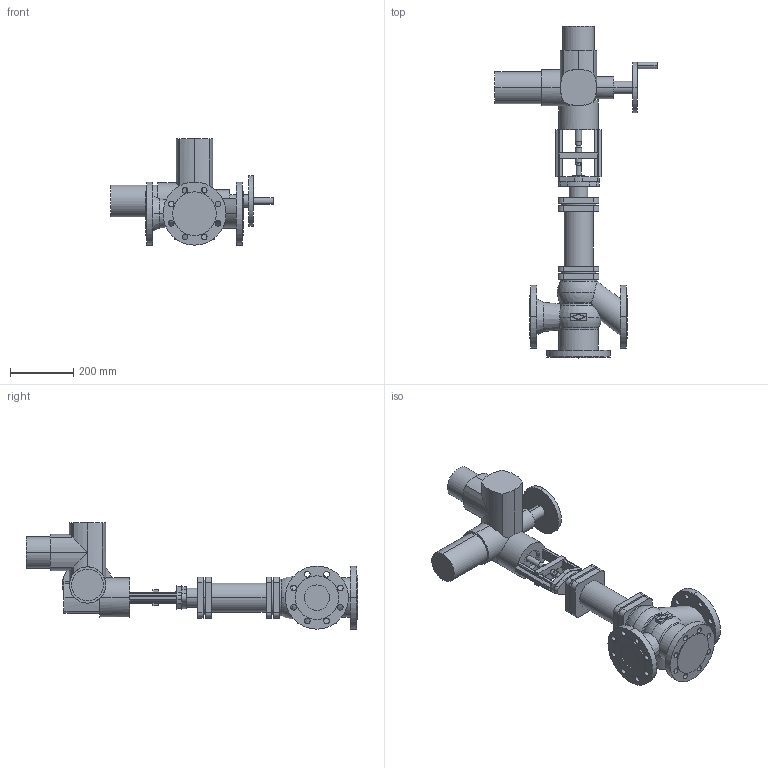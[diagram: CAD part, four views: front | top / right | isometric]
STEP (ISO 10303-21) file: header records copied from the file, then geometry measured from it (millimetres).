
FILE_DESCRIPTION(('OneSpaceDesigner STEP Export'),'2;1');
FILE_NAME('c000003218.stp','2007-01-25T12:03:17',(''),(''),'OneSpace Designer STEP processor for AP214 (Solid Model)','OneSpace Designer 14.00B 27-May-2006 (C) CoCreate Software GmbH','');
FILE_SCHEMA(('AUTOMOTIVE_DESIGN { 1 0 10303 214 1 1 1 1 }'));
Length unit declared in the file: millimetre
Products named in the file (2): 1; 2
Bounding box: 514 x 1051.7 x 337 mm (x, y, z)
Volume: 17510342.2 mm3; surface area: 984449.9 mm2
Topology: 2 solids, 2 shells, 369 faces, 960 edges, 613 vertices
Faces by surface type: cylinder 186, plane 158, torus 13, cone 8, sphere 4
Entity records: 10873 total; most frequent: CARTESIAN_POINT 2391, ORIENTED_EDGE 1912, DIRECTION 1580, EDGE_CURVE 956, VERTEX_POINT 613, AXIS2_PLACEMENT_3D 548, VECTOR 484, LINE 484
